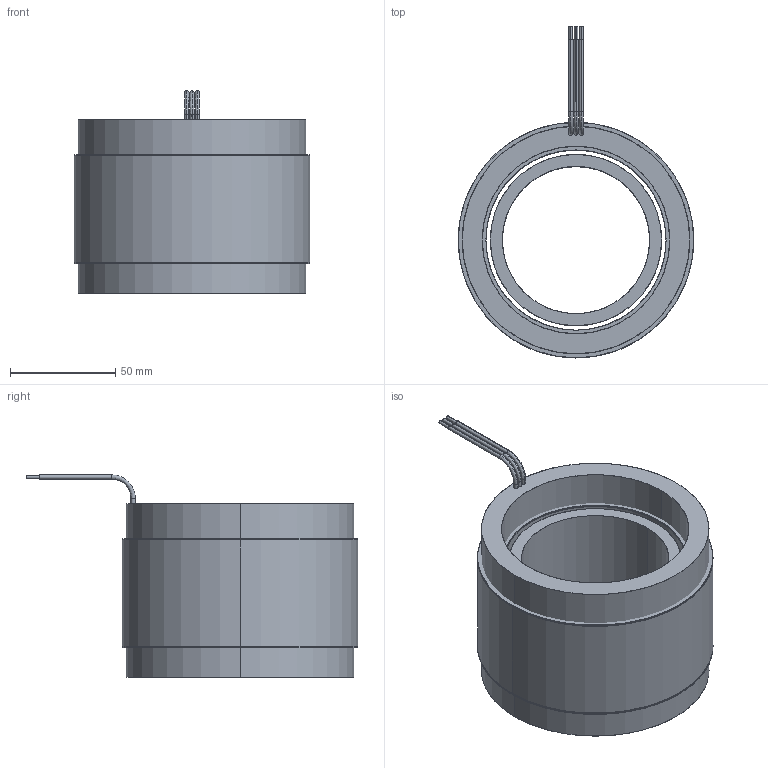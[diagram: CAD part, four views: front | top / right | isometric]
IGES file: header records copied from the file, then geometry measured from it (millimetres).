
Start section: SolidWorks IGES file using analytic representation for surfaces
Global section: file name: \\fs01.aveox.local\user documents\eng\My Documents\STANDARD STATOR ROTOR SETS\Standard rotor and stator set released\4.4 inch stator diameter\6100255-03.IGS; native system: SolidWorks 2016; preprocessor: SolidWorks 2016; author: eng; date: 191111.094135; units: millimetre
Bounding box: 111.76 x 157.42 x 96.01 mm (x, y, z)
Surface area: 157525.5 mm2 (no closed solid volume)
Topology: 0 solids, 0 shells, 72 faces, 2240 edges, 2240 vertices
Faces by surface type: revolution 46, bspline 26
